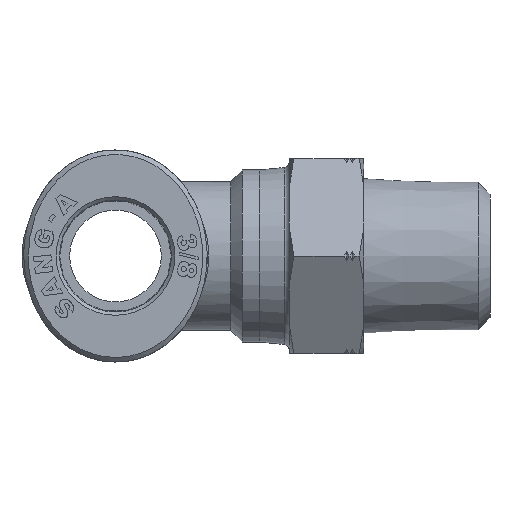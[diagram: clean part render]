
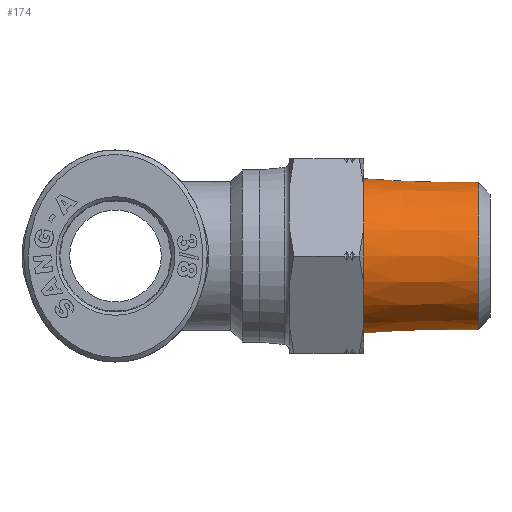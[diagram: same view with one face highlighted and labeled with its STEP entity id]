
A CAD part, left-side view. The second image highlights one B-rep face of the part: STEP entity #174.
In plain terms, the highlighted conical face has half-angle 1.791 degrees and reference radius 6.562 mm.
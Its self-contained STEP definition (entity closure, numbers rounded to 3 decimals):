
#112=CARTESIAN_POINT('',(6.422,1.,0.));
#113=VERTEX_POINT('',#112);
#114=CARTESIAN_POINT('',(0.,1.,0.));
#115=DIRECTION('',(0.0,-1.0,0.0));
#116=DIRECTION('',(-1.0,0.0,0.0));
#117=AXIS2_PLACEMENT_3D('',#114,#115,#116);
#118=CIRCLE('',#117,6.422);
#119=EDGE_CURVE('',#113,#113,#118,.T.);
#155=CARTESIAN_POINT('',(0.,5.5,0.0));
#156=DIRECTION('',(0.,1.0,0.0));
#157=DIRECTION('',(1.0,0.0,0.0));
#158=AXIS2_PLACEMENT_3D('',#155,#156,#157);
#159=CONICAL_SURFACE('',#158,6.563,1.791);
#160=CARTESIAN_POINT('',(6.734,11.0,0.0));
#161=VERTEX_POINT('',#160);
#162=CARTESIAN_POINT('',(0.,11.0,0.0));
#163=DIRECTION('',(0.0,-1.0,0.0));
#164=DIRECTION('',(1.0,0.0,0.0));
#165=AXIS2_PLACEMENT_3D('',#162,#163,#164);
#166=CIRCLE('',#165,6.735);
#167=EDGE_CURVE('',#161,#161,#166,.T.);
#168=ORIENTED_EDGE('',*,*,#167,.T.);
#169=EDGE_LOOP('',(#168));
#170=FACE_OUTER_BOUND('',#169,.T.);
#171=ORIENTED_EDGE('',*,*,#119,.F.);
#172=EDGE_LOOP('',(#171));
#173=FACE_BOUND('',#172,.T.);
#174=ADVANCED_FACE('',(#170,#173),#159,.T.);
